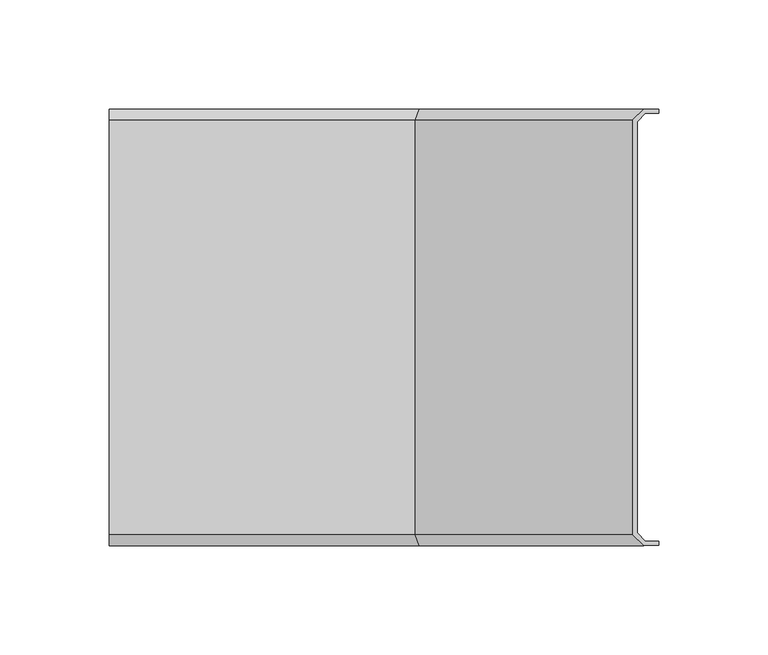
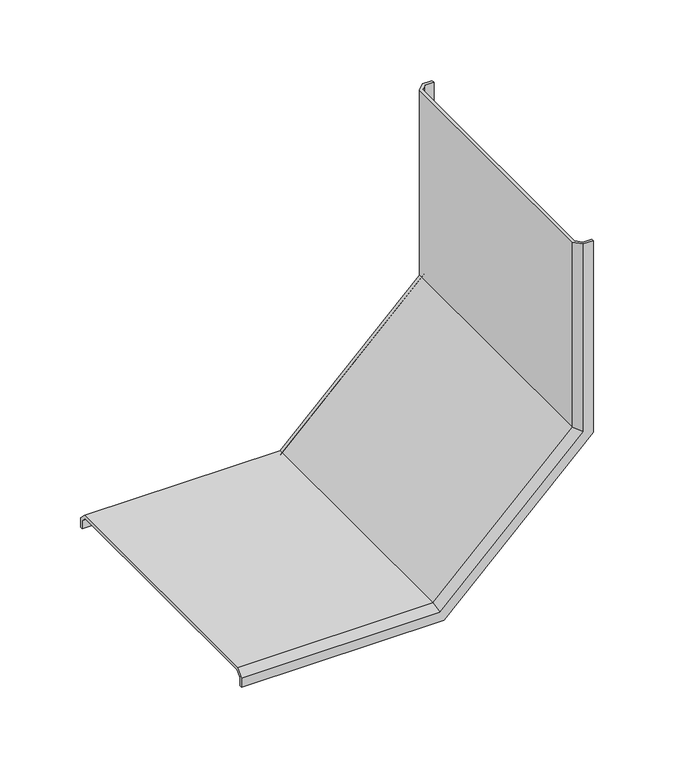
"""IFC4 building model written with IfcOpenShell, lengths in millimetres: proxy geometry, Cable_Tray_Cover_TCCBPE_Basorplast : Basorplast TCCBPE 60X200."""

from ifc_helpers import new_model, si_unit, origin, place, context, project, spatial, faceted_brep, source, transform, mapped, element, save


def generic_models_a6422015(model_context):
    return source(origin(), model_context, "Body", "Brep", [
        faceted_brep([(0.0, 100.0, -10.0), (0.0, 98.0, -10.0), (0.0, 98.0, -3.8284271), (0.0, 94.1715729, 0.0), (0.0, -94.1715729, 0.0), (0.0, -98.0, -3.8284271), (0.0, -98.0, -10.0), (0.0, -100.0, -10.0), (0.0, -100.0, -3.0), (0.0, -95.0, 2.0), (0.0, 95.0, 2.0), (0.0, 100.0, -3.0), (144.8997084, 100.0, -10.0), (144.8997084, 98.0, -10.0), (252.0, 98.0, 94.9582858), (252.0, 98.0, 240.0), (245.8284271, 98.0, 240.0), (245.8284271, 98.0, 97.551228), (142.3797994, 98.0, -3.8284271), (140.8166181, 94.1715729, 0.0), (140.8166181, -94.1715729, 0.0), (142.3797994, -98.0, -3.8284271), (245.8284271, -98.0, 97.551228), (245.8284271, -98.0, 240.0), (252.0, -98.0, 240.0), (252.0, -98.0, 94.9582858), (144.8997084, -98.0, -10.0), (144.8997084, -100.0, -10.0), (252.0, -100.0, 94.9582858), (252.0, -100.0, 240.0), (245.0, -100.0, 240.0), (245.0, -100.0, 97.8992858), (142.0415452, -100.0, -3.0), (140.0, -95.0, 2.0), (140.0, 95.0, 2.0), (142.0415452, 100.0, -3.0), (245.0, 100.0, 97.8992858), (245.0, 100.0, 240.0), (252.0, 100.0, 240.0), (252.0, 100.0, 94.9582858), (242.0, 94.1715729, 99.1597143), (242.0, -94.1715729, 99.1597143), (240.0, -95.0, 100.0), (240.0, 95.0, 100.0), (240.0, 95.0, 240.0), (240.0, -95.0, 240.0), (242.0, -94.1715729, 240.0), (242.0, 94.1715729, 240.0)], [[[0, 1, 2, 3, 4, 5, 6, 7, 8, 9, 10, 11]], [[1, 0, 12, 13]], [[2, 1, 13, 14, 15, 16, 17, 18]], [[3, 2, 18, 19]], [[4, 3, 19, 20]], [[5, 4, 20, 21]], [[6, 5, 21, 22, 23, 24, 25, 26]], [[7, 6, 26, 27]], [[8, 7, 27, 28, 29, 30, 31, 32]], [[9, 8, 32, 33]], [[10, 9, 33, 34]], [[11, 10, 34, 35]], [[0, 11, 35, 36, 37, 38, 39, 12]], [[13, 12, 39, 14]], [[19, 18, 17, 40]], [[20, 19, 40, 41]], [[21, 20, 41, 22]], [[27, 26, 25, 28]], [[33, 32, 31, 42]], [[34, 33, 42, 43]], [[35, 34, 43, 36]], [[38, 37, 44, 45, 30, 29, 24, 23, 46, 47, 16, 15]], [[14, 39, 38, 15]], [[40, 17, 16, 47]], [[41, 40, 47, 46]], [[22, 41, 46, 23]], [[28, 25, 24, 29]], [[42, 31, 30, 45]], [[43, 42, 45, 44]], [[36, 43, 44, 37]]]),
    ])


if __name__ == "__main__":
    model = new_model("IFC4")
    model_context = context("Model", 3, world=origin())
    ifc_project = project(units=[si_unit("LENGTHUNIT", "METRE", prefix="MILLI")], contexts=[model_context])
    site = spatial("IfcSite", under=ifc_project)
    building = spatial("IfcBuilding", under=site)
    placement = place(None, origin())
    generic_models_shape = generic_models_a6422015(model_context)
    element("IfcBuildingElementProxy", 1, Name="Cable_Tray_Cover_TCCBPE_Basorplast : Basorplast TCCBPE 60X200", ObjectType="Cable_Tray_Cover_TCCBPE_Basorplast : Basorplast TCCBPE 60X200", at=placement, inside=building, context=model_context, shape_type="MappedRepresentation", body=[
        mapped(generic_models_shape, transform((0.0, 0.0, 0.0), x_axis=(1.0, 0.0, 0.0), y_axis=(0.0, 1.0, 0.0), z_axis=(0.0, 0.0, 1.0))),
    ])
    save(model, "model.ifc")
